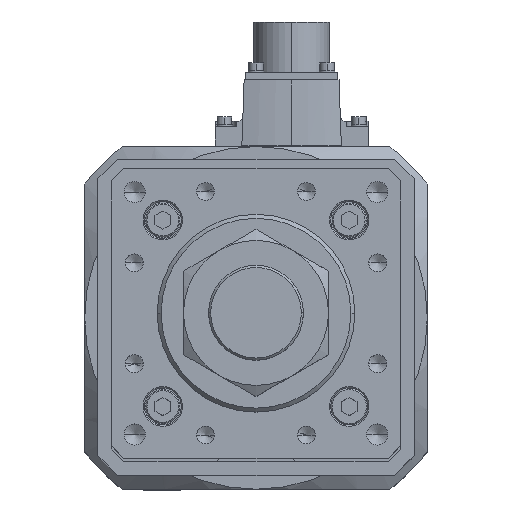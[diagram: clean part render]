
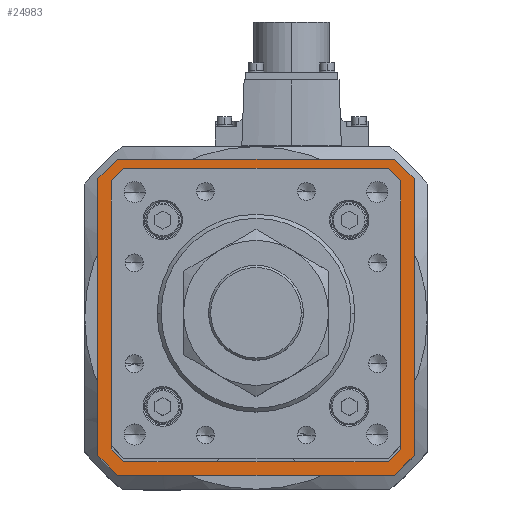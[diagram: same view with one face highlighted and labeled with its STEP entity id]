
A CAD part, top view. The second image highlights one B-rep face of the part: STEP entity #24983.
In plain terms, the highlighted planar face has unit normal (0, 0, 1).
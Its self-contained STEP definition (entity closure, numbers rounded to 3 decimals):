
#78 = CARTESIAN_POINT ( 'NONE',  ( 60., 52.5, -119. ) ) ;
#509 = VECTOR ( 'NONE', #37686, 1000. ) ;
#556 = CARTESIAN_POINT ( 'NONE',  ( -53.646, -49.446, -119. ) ) ;
#2513 = EDGE_CURVE ( 'NONE', #34982, #4514, #17695, .T. ) ;
#2771 = CARTESIAN_POINT ( 'NONE',  ( -52.5, -60., -119. ) ) ;
#3314 = EDGE_CURVE ( 'NONE', #7350, #30062, #16539, .T. ) ;
#3358 = DIRECTION ( 'NONE',  ( -0.707, 0.707, 0. ) ) ;
#3605 = LINE ( 'NONE', #28952, #24950 ) ;
#3711 = PLANE ( 'NONE',  #14060 ) ;
#4514 = VERTEX_POINT ( 'NONE', #33964 ) ;
#4551 = CARTESIAN_POINT ( 'NONE',  ( 49.593, 53.5, -119. ) ) ;
#4913 = CARTESIAN_POINT ( 'NONE',  ( 53.5, 49.593, -119. ) ) ;
#6054 = DIRECTION ( 'NONE',  ( 0., -1., 0. ) ) ;
#6153 = CARTESIAN_POINT ( 'NONE',  ( -53.5, 49.8, -119. ) ) ;
#6603 = VERTEX_POINT ( 'NONE', #30801 ) ;
#6615 = LINE ( 'NONE', #14648, #13877 ) ;
#6644 = VECTOR ( 'NONE', #35792, 1000. ) ;
#6681 = ORIENTED_EDGE ( 'NONE', *, *, #6799, .F. ) ;
#6793 = CARTESIAN_POINT ( 'NONE',  ( 49.8, 53.5, -119. ) ) ;
#6799 = EDGE_CURVE ( 'NONE', #19802, #13329, #35002, .T. ) ;
#6902 = ORIENTED_EDGE ( 'NONE', *, *, #7560, .F. ) ;
#6962 = LINE ( 'NONE', #6153, #27834 ) ;
#7051 = FACE_BOUND ( 'NONE', #11879, .T. ) ;
#7155 = VECTOR ( 'NONE', #3358, 1000. ) ;
#7252 = EDGE_CURVE ( 'NONE', #32217, #27319, #25404, .T. ) ;
#7276 = EDGE_LOOP ( 'NONE', ( #6681, #33084, #13035, #35560, #13240, #33651, #7914, #6902 ) ) ;
#7350 = VERTEX_POINT ( 'NONE', #17143 ) ;
#7560 = EDGE_CURVE ( 'NONE', #13329, #34095, #3605, .T. ) ;
#7630 = CARTESIAN_POINT ( 'NONE',  ( 53.646, 49.446, -119. ) ) ;
#7842 = ORIENTED_EDGE ( 'NONE', *, *, #33330, .T. ) ;
#7914 = ORIENTED_EDGE ( 'NONE', *, *, #11671, .F. ) ;
#7994 = CARTESIAN_POINT ( 'NONE',  ( -53.5, 49.593, -119. ) ) ;
#8099 = ORIENTED_EDGE ( 'NONE', *, *, #16514, .T. ) ;
#8131 = ORIENTED_EDGE ( 'NONE', *, *, #2513, .T. ) ;
#8266 = VECTOR ( 'NONE', #13350, 1000. ) ;
#8326 = CARTESIAN_POINT ( 'NONE',  ( 53.5, -49.8, -119. ) ) ;
#8446 = CARTESIAN_POINT ( 'NONE',  ( 60., 52.5, -119. ) ) ;
#8499 = VECTOR ( 'NONE', #16998, 1000. ) ;
#9340 = FACE_OUTER_BOUND ( 'NONE', #7276, .T. ) ;
#9658 = LINE ( 'NONE', #7630, #8266 ) ;
#10740 = CARTESIAN_POINT ( 'NONE',  ( -60., -52.5, -119. ) ) ;
#11016 = DIRECTION ( 'NONE',  ( 0.707, 0.707, 0. ) ) ;
#11393 = VECTOR ( 'NONE', #22027, 1000. ) ;
#11669 = CARTESIAN_POINT ( 'NONE',  ( -53.5, -49.593, -119. ) ) ;
#11671 = EDGE_CURVE ( 'NONE', #34095, #22734, #14439, .T. ) ;
#11686 = LINE ( 'NONE', #31488, #8499 ) ;
#11879 = EDGE_LOOP ( 'NONE', ( #36373, #22712, #8131, #22781, #22551, #31814, #8099, #7842 ) ) ;
#13033 = CARTESIAN_POINT ( 'NONE',  ( 49.593, -53.5, -119. ) ) ;
#13035 = ORIENTED_EDGE ( 'NONE', *, *, #21031, .F. ) ;
#13240 = ORIENTED_EDGE ( 'NONE', *, *, #7252, .F. ) ;
#13329 = VERTEX_POINT ( 'NONE', #21266 ) ;
#13350 = DIRECTION ( 'NONE',  ( 0.707, -0.707, 0. ) ) ;
#13460 = LINE ( 'NONE', #18971, #15658 ) ;
#13722 = VERTEX_POINT ( 'NONE', #11669 ) ;
#13877 = VECTOR ( 'NONE', #37502, 1000. ) ;
#14060 = AXIS2_PLACEMENT_3D ( 'NONE', #23998, #26792, #23488 ) ;
#14439 = LINE ( 'NONE', #78, #32091 ) ;
#14452 = VERTEX_POINT ( 'NONE', #24727 ) ;
#14482 = DIRECTION ( 'NONE',  ( -1., 0., 0. ) ) ;
#14648 = CARTESIAN_POINT ( 'NONE',  ( 49.446, -53.646, -119. ) ) ;
#14854 = LINE ( 'NONE', #556, #7155 ) ;
#14965 = CARTESIAN_POINT ( 'NONE',  ( -49.8, -53.5, -119. ) ) ;
#15411 = CARTESIAN_POINT ( 'NONE',  ( 52.5, -60., -119. ) ) ;
#15658 = VECTOR ( 'NONE', #18709, 1000. ) ;
#16140 = CARTESIAN_POINT ( 'NONE',  ( -52.5, 60., -119. ) ) ;
#16514 = EDGE_CURVE ( 'NONE', #13722, #37154, #6962, .T. ) ;
#16539 = LINE ( 'NONE', #6793, #19774 ) ;
#16998 = DIRECTION ( 'NONE',  ( 0., 1., 0. ) ) ;
#17143 = CARTESIAN_POINT ( 'NONE',  ( -49.593, 53.5, -119. ) ) ;
#17258 = EDGE_CURVE ( 'NONE', #30062, #34982, #9658, .T. ) ;
#17265 = DIRECTION ( 'NONE',  ( 0.707, -0.707, 0. ) ) ;
#17695 = LINE ( 'NONE', #8326, #29464 ) ;
#17901 = DIRECTION ( 'NONE',  ( 0., 1., 0. ) ) ;
#18709 = DIRECTION ( 'NONE',  ( 0.707, 0.707, 0. ) ) ;
#18971 = CARTESIAN_POINT ( 'NONE',  ( -49.446, 53.646, -119. ) ) ;
#19350 = CARTESIAN_POINT ( 'NONE',  ( 52.5, -60., -119. ) ) ;
#19560 = VECTOR ( 'NONE', #25340, 1000. ) ;
#19774 = VECTOR ( 'NONE', #21493, 1000. ) ;
#19802 = VERTEX_POINT ( 'NONE', #25123 ) ;
#20634 = EDGE_CURVE ( 'NONE', #14452, #13722, #14854, .T. ) ;
#21031 = EDGE_CURVE ( 'NONE', #31284, #6603, #11686, .T. ) ;
#21152 = LINE ( 'NONE', #21317, #6644 ) ;
#21266 = CARTESIAN_POINT ( 'NONE',  ( 52.5, 60., -119. ) ) ;
#21281 = EDGE_CURVE ( 'NONE', #22734, #32217, #21152, .T. ) ;
#21317 = CARTESIAN_POINT ( 'NONE',  ( 60., -52.5, -119. ) ) ;
#21493 = DIRECTION ( 'NONE',  ( 1., 0., 0. ) ) ;
#22027 = DIRECTION ( 'NONE',  ( -1., 0., 0. ) ) ;
#22421 = CARTESIAN_POINT ( 'NONE',  ( 52.5, 60., -119. ) ) ;
#22551 = ORIENTED_EDGE ( 'NONE', *, *, #25446, .T. ) ;
#22712 = ORIENTED_EDGE ( 'NONE', *, *, #17258, .T. ) ;
#22734 = VERTEX_POINT ( 'NONE', #28039 ) ;
#22781 = ORIENTED_EDGE ( 'NONE', *, *, #24802, .T. ) ;
#23193 = LINE ( 'NONE', #16140, #28616 ) ;
#23488 = DIRECTION ( 'NONE',  ( 1., 0., 0. ) ) ;
#23998 = CARTESIAN_POINT ( 'NONE',  ( 0., 0., -119. ) ) ;
#24727 = CARTESIAN_POINT ( 'NONE',  ( -49.593, -53.5, -119. ) ) ;
#24802 = EDGE_CURVE ( 'NONE', #4514, #26720, #6615, .T. ) ;
#24950 = VECTOR ( 'NONE', #17265, 1000. ) ;
#24983 = ADVANCED_FACE ( 'NONE', ( #7051, #9340 ), #3711, .T. ) ;
#25123 = CARTESIAN_POINT ( 'NONE',  ( -52.5, 60., -119. ) ) ;
#25340 = DIRECTION ( 'NONE',  ( 1., 0., 0. ) ) ;
#25404 = LINE ( 'NONE', #19350, #11393 ) ;
#25446 = EDGE_CURVE ( 'NONE', #26720, #14452, #35625, .T. ) ;
#26720 = VERTEX_POINT ( 'NONE', #13033 ) ;
#26766 = CARTESIAN_POINT ( 'NONE',  ( -52.5, -60., -119. ) ) ;
#26792 = DIRECTION ( 'NONE',  ( 0., 0., 1. ) ) ;
#27319 = VERTEX_POINT ( 'NONE', #26766 ) ;
#27714 = EDGE_CURVE ( 'NONE', #27319, #31284, #31388, .T. ) ;
#27834 = VECTOR ( 'NONE', #17901, 1000. ) ;
#28039 = CARTESIAN_POINT ( 'NONE',  ( 60., -52.5, -119. ) ) ;
#28616 = VECTOR ( 'NONE', #11016, 1000. ) ;
#28952 = CARTESIAN_POINT ( 'NONE',  ( 60., 52.5, -119. ) ) ;
#29464 = VECTOR ( 'NONE', #34431, 1000. ) ;
#30062 = VERTEX_POINT ( 'NONE', #4551 ) ;
#30122 = VECTOR ( 'NONE', #14482, 1000. ) ;
#30801 = CARTESIAN_POINT ( 'NONE',  ( -60., 52.5, -119. ) ) ;
#31284 = VERTEX_POINT ( 'NONE', #10740 ) ;
#31388 = LINE ( 'NONE', #2771, #509 ) ;
#31488 = CARTESIAN_POINT ( 'NONE',  ( -60., 52.5, -119. ) ) ;
#31814 = ORIENTED_EDGE ( 'NONE', *, *, #20634, .T. ) ;
#32091 = VECTOR ( 'NONE', #6054, 1000. ) ;
#32217 = VERTEX_POINT ( 'NONE', #15411 ) ;
#33084 = ORIENTED_EDGE ( 'NONE', *, *, #35918, .F. ) ;
#33330 = EDGE_CURVE ( 'NONE', #37154, #7350, #13460, .T. ) ;
#33651 = ORIENTED_EDGE ( 'NONE', *, *, #21281, .F. ) ;
#33964 = CARTESIAN_POINT ( 'NONE',  ( 53.5, -49.593, -119. ) ) ;
#34095 = VERTEX_POINT ( 'NONE', #8446 ) ;
#34431 = DIRECTION ( 'NONE',  ( 0., -1., 0. ) ) ;
#34982 = VERTEX_POINT ( 'NONE', #4913 ) ;
#35002 = LINE ( 'NONE', #22421, #19560 ) ;
#35560 = ORIENTED_EDGE ( 'NONE', *, *, #27714, .F. ) ;
#35625 = LINE ( 'NONE', #14965, #30122 ) ;
#35792 = DIRECTION ( 'NONE',  ( -0.707, -0.707, 0. ) ) ;
#35918 = EDGE_CURVE ( 'NONE', #6603, #19802, #23193, .T. ) ;
#36373 = ORIENTED_EDGE ( 'NONE', *, *, #3314, .T. ) ;
#37154 = VERTEX_POINT ( 'NONE', #7994 ) ;
#37502 = DIRECTION ( 'NONE',  ( -0.707, -0.707, 0. ) ) ;
#37686 = DIRECTION ( 'NONE',  ( -0.707, 0.707, 0. ) ) ;
